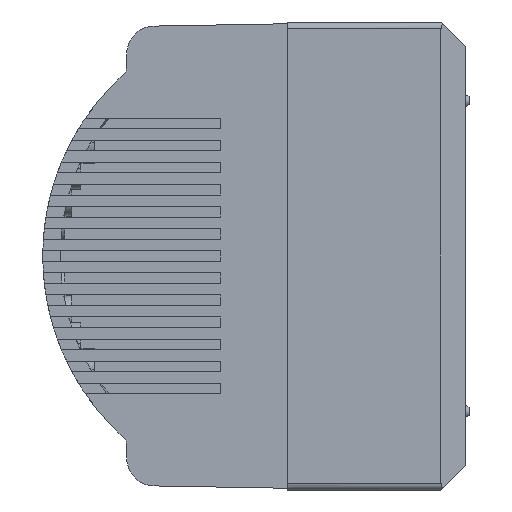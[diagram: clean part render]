
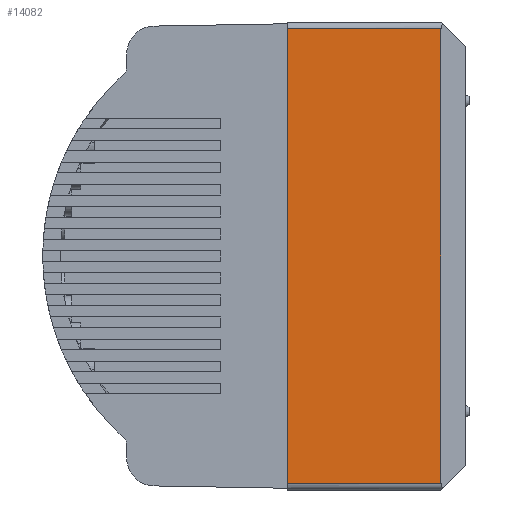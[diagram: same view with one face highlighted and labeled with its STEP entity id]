
A CAD part, left-side view. The second image highlights one B-rep face of the part: STEP entity #14082.
In plain terms, the highlighted planar face has unit normal (-1, 0, 0).
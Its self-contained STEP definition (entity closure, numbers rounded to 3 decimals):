
#533 = VERTEX_POINT ( 'NONE', #1930 ) ;
#1053 = CARTESIAN_POINT ( 'NONE',  ( -62.5, -25.5, 32.5 ) ) ;
#1560 = DIRECTION ( 'NONE',  ( 0., 0., 1. ) ) ;
#1930 = CARTESIAN_POINT ( 'NONE',  ( -62.5, -22., 32.5 ) ) ;
#2798 = CARTESIAN_POINT ( 'NONE',  ( -62.5, 0., -32.5 ) ) ;
#3719 = VECTOR ( 'NONE', #20885, 1000. ) ;
#3992 = LINE ( 'NONE', #9412, #17677 ) ;
#4854 = EDGE_LOOP ( 'NONE', ( #13487, #15042, #17824, #17034 ) ) ;
#5789 = DIRECTION ( 'NONE',  ( 0., 0., 1. ) ) ;
#5904 = VERTEX_POINT ( 'NONE', #13304 ) ;
#6442 = VERTEX_POINT ( 'NONE', #10378 ) ;
#7082 = VECTOR ( 'NONE', #7420, 1000. ) ;
#7420 = DIRECTION ( 'NONE',  ( 0., 1., 0. ) ) ;
#7861 = VERTEX_POINT ( 'NONE', #2798 ) ;
#8074 = LINE ( 'NONE', #1053, #3719 ) ;
#9014 = AXIS2_PLACEMENT_3D ( 'NONE', #9777, #11425, #1560 ) ;
#9412 = CARTESIAN_POINT ( 'NONE',  ( -62.5, -22., -32.5 ) ) ;
#9777 = CARTESIAN_POINT ( 'NONE',  ( -62.5, -25.5, -32.5 ) ) ;
#10079 = EDGE_CURVE ( 'NONE', #6442, #533, #3992, .T. ) ;
#10250 = LINE ( 'NONE', #17338, #14111 ) ;
#10378 = CARTESIAN_POINT ( 'NONE',  ( -62.5, -22., -32.5 ) ) ;
#11210 = EDGE_CURVE ( 'NONE', #7861, #5904, #10250, .T. ) ;
#11425 = DIRECTION ( 'NONE',  ( -1., 0., 0. ) ) ;
#13304 = CARTESIAN_POINT ( 'NONE',  ( -62.5, 0., 32.5 ) ) ;
#13487 = ORIENTED_EDGE ( 'NONE', *, *, #15491, .F. ) ;
#14082 = ADVANCED_FACE ( 'NONE', ( #15291 ), #19667, .T. ) ;
#14111 = VECTOR ( 'NONE', #5789, 1000. ) ;
#15042 = ORIENTED_EDGE ( 'NONE', *, *, #10079, .T. ) ;
#15291 = FACE_OUTER_BOUND ( 'NONE', #4854, .T. ) ;
#15491 = EDGE_CURVE ( 'NONE', #6442, #7861, #15846, .T. ) ;
#15846 = LINE ( 'NONE', #17323, #7082 ) ;
#17034 = ORIENTED_EDGE ( 'NONE', *, *, #11210, .F. ) ;
#17323 = CARTESIAN_POINT ( 'NONE',  ( -62.5, -25.5, -32.5 ) ) ;
#17338 = CARTESIAN_POINT ( 'NONE',  ( -62.5, 0., -32.5 ) ) ;
#17677 = VECTOR ( 'NONE', #19305, 1000. ) ;
#17824 = ORIENTED_EDGE ( 'NONE', *, *, #20884, .T. ) ;
#19305 = DIRECTION ( 'NONE',  ( 0., 0., 1. ) ) ;
#19667 = PLANE ( 'NONE',  #9014 ) ;
#20884 = EDGE_CURVE ( 'NONE', #533, #5904, #8074, .T. ) ;
#20885 = DIRECTION ( 'NONE',  ( 0., 1., 0. ) ) ;
